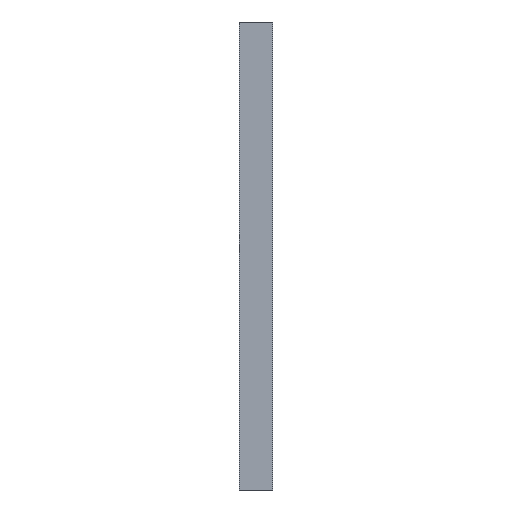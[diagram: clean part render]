
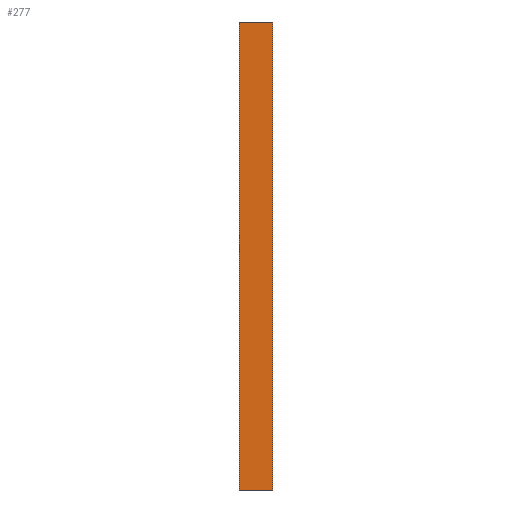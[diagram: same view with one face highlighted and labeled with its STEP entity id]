
A CAD part, front view. The second image highlights one B-rep face of the part: STEP entity #277.
In plain terms, the highlighted planar face has unit normal (0, -1, 0).
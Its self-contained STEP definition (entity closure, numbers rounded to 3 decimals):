
#21 = EDGE_CURVE('',#22,#24,#26,.T.);
#22 = VERTEX_POINT('',#23);
#23 = CARTESIAN_POINT('',(-1.5,-21.,0.));
#24 = VERTEX_POINT('',#25);
#25 = CARTESIAN_POINT('',(-1.5,-21.,42.));
#26 = SURFACE_CURVE('',#27,(#31,#43),.PCURVE_S1.);
#27 = LINE('',#28,#29);
#28 = CARTESIAN_POINT('',(-1.5,-21.,0.));
#29 = VECTOR('',#30,1.);
#30 = DIRECTION('',(0.,0.,1.));
#31 = PCURVE('',#32,#37);
#32 = PLANE('',#33);
#33 = AXIS2_PLACEMENT_3D('',#34,#35,#36);
#34 = CARTESIAN_POINT('',(-1.5,-21.,0.));
#35 = DIRECTION('',(1.,0.,0.));
#36 = DIRECTION('',(0.,0.,1.));
#37 = DEFINITIONAL_REPRESENTATION('',(#38),#42);
#38 = LINE('',#39,#40);
#39 = CARTESIAN_POINT('',(0.,0.));
#40 = VECTOR('',#41,1.);
#41 = DIRECTION('',(1.,0.));
#42 = ( GEOMETRIC_REPRESENTATION_CONTEXT(2) 
PARAMETRIC_REPRESENTATION_CONTEXT() REPRESENTATION_CONTEXT('2D SPACE',''
  ) );
#43 = PCURVE('',#44,#49);
#44 = PLANE('',#45);
#45 = AXIS2_PLACEMENT_3D('',#46,#47,#48);
#46 = CARTESIAN_POINT('',(-1.5,-21.,0.));
#47 = DIRECTION('',(0.,1.,0.));
#48 = DIRECTION('',(0.,0.,1.));
#49 = DEFINITIONAL_REPRESENTATION('',(#50),#54);
#50 = LINE('',#51,#52);
#51 = CARTESIAN_POINT('',(0.,0.));
#52 = VECTOR('',#53,1.);
#53 = DIRECTION('',(1.,0.));
#54 = ( GEOMETRIC_REPRESENTATION_CONTEXT(2) 
PARAMETRIC_REPRESENTATION_CONTEXT() REPRESENTATION_CONTEXT('2D SPACE',''
  ) );
#72 = PLANE('',#73);
#73 = AXIS2_PLACEMENT_3D('',#74,#75,#76);
#74 = CARTESIAN_POINT('',(-1.5,-21.,0.));
#75 = DIRECTION('',(0.,0.,1.));
#76 = DIRECTION('',(1.,0.,0.));
#126 = PLANE('',#127);
#127 = AXIS2_PLACEMENT_3D('',#128,#129,#130);
#128 = CARTESIAN_POINT('',(-1.5,-21.,42.));
#129 = DIRECTION('',(0.,0.,1.));
#130 = DIRECTION('',(1.,0.,0.));
#277 = ADVANCED_FACE('',(#278),#44,.F.);
#278 = FACE_BOUND('',#279,.F.);
#279 = EDGE_LOOP('',(#280,#303,#304,#327));
#280 = ORIENTED_EDGE('',*,*,#281,.F.);
#281 = EDGE_CURVE('',#22,#282,#284,.T.);
#282 = VERTEX_POINT('',#283);
#283 = CARTESIAN_POINT('',(1.5,-21.,0.));
#284 = SURFACE_CURVE('',#285,(#289,#296),.PCURVE_S1.);
#285 = LINE('',#286,#287);
#286 = CARTESIAN_POINT('',(-1.5,-21.,0.));
#287 = VECTOR('',#288,1.);
#288 = DIRECTION('',(1.,0.,0.));
#289 = PCURVE('',#44,#290);
#290 = DEFINITIONAL_REPRESENTATION('',(#291),#295);
#291 = LINE('',#292,#293);
#292 = CARTESIAN_POINT('',(0.,0.));
#293 = VECTOR('',#294,1.);
#294 = DIRECTION('',(0.,1.));
#295 = ( GEOMETRIC_REPRESENTATION_CONTEXT(2) 
PARAMETRIC_REPRESENTATION_CONTEXT() REPRESENTATION_CONTEXT('2D SPACE',''
  ) );
#296 = PCURVE('',#72,#297);
#297 = DEFINITIONAL_REPRESENTATION('',(#298),#302);
#298 = LINE('',#299,#300);
#299 = CARTESIAN_POINT('',(0.,0.));
#300 = VECTOR('',#301,1.);
#301 = DIRECTION('',(1.,0.));
#302 = ( GEOMETRIC_REPRESENTATION_CONTEXT(2) 
PARAMETRIC_REPRESENTATION_CONTEXT() REPRESENTATION_CONTEXT('2D SPACE',''
  ) );
#303 = ORIENTED_EDGE('',*,*,#21,.T.);
#304 = ORIENTED_EDGE('',*,*,#305,.T.);
#305 = EDGE_CURVE('',#24,#306,#308,.T.);
#306 = VERTEX_POINT('',#307);
#307 = CARTESIAN_POINT('',(1.5,-21.,42.));
#308 = SURFACE_CURVE('',#309,(#313,#320),.PCURVE_S1.);
#309 = LINE('',#310,#311);
#310 = CARTESIAN_POINT('',(-1.5,-21.,42.));
#311 = VECTOR('',#312,1.);
#312 = DIRECTION('',(1.,0.,0.));
#313 = PCURVE('',#44,#314);
#314 = DEFINITIONAL_REPRESENTATION('',(#315),#319);
#315 = LINE('',#316,#317);
#316 = CARTESIAN_POINT('',(42.,0.));
#317 = VECTOR('',#318,1.);
#318 = DIRECTION('',(0.,1.));
#319 = ( GEOMETRIC_REPRESENTATION_CONTEXT(2) 
PARAMETRIC_REPRESENTATION_CONTEXT() REPRESENTATION_CONTEXT('2D SPACE',''
  ) );
#320 = PCURVE('',#126,#321);
#321 = DEFINITIONAL_REPRESENTATION('',(#322),#326);
#322 = LINE('',#323,#324);
#323 = CARTESIAN_POINT('',(0.,0.));
#324 = VECTOR('',#325,1.);
#325 = DIRECTION('',(1.,0.));
#326 = ( GEOMETRIC_REPRESENTATION_CONTEXT(2) 
PARAMETRIC_REPRESENTATION_CONTEXT() REPRESENTATION_CONTEXT('2D SPACE',''
  ) );
#327 = ORIENTED_EDGE('',*,*,#328,.F.);
#328 = EDGE_CURVE('',#282,#306,#329,.T.);
#329 = SURFACE_CURVE('',#330,(#334,#341),.PCURVE_S1.);
#330 = LINE('',#331,#332);
#331 = CARTESIAN_POINT('',(1.5,-21.,0.));
#332 = VECTOR('',#333,1.);
#333 = DIRECTION('',(0.,0.,1.));
#334 = PCURVE('',#44,#335);
#335 = DEFINITIONAL_REPRESENTATION('',(#336),#340);
#336 = LINE('',#337,#338);
#337 = CARTESIAN_POINT('',(0.,3.));
#338 = VECTOR('',#339,1.);
#339 = DIRECTION('',(1.,0.));
#340 = ( GEOMETRIC_REPRESENTATION_CONTEXT(2) 
PARAMETRIC_REPRESENTATION_CONTEXT() REPRESENTATION_CONTEXT('2D SPACE',''
  ) );
#341 = PCURVE('',#342,#347);
#342 = PLANE('',#343);
#343 = AXIS2_PLACEMENT_3D('',#344,#345,#346);
#344 = CARTESIAN_POINT('',(1.5,-21.,0.));
#345 = DIRECTION('',(1.,0.,0.));
#346 = DIRECTION('',(0.,0.,1.));
#347 = DEFINITIONAL_REPRESENTATION('',(#348),#352);
#348 = LINE('',#349,#350);
#349 = CARTESIAN_POINT('',(0.,0.));
#350 = VECTOR('',#351,1.);
#351 = DIRECTION('',(1.,0.));
#352 = ( GEOMETRIC_REPRESENTATION_CONTEXT(2) 
PARAMETRIC_REPRESENTATION_CONTEXT() REPRESENTATION_CONTEXT('2D SPACE',''
  ) );
